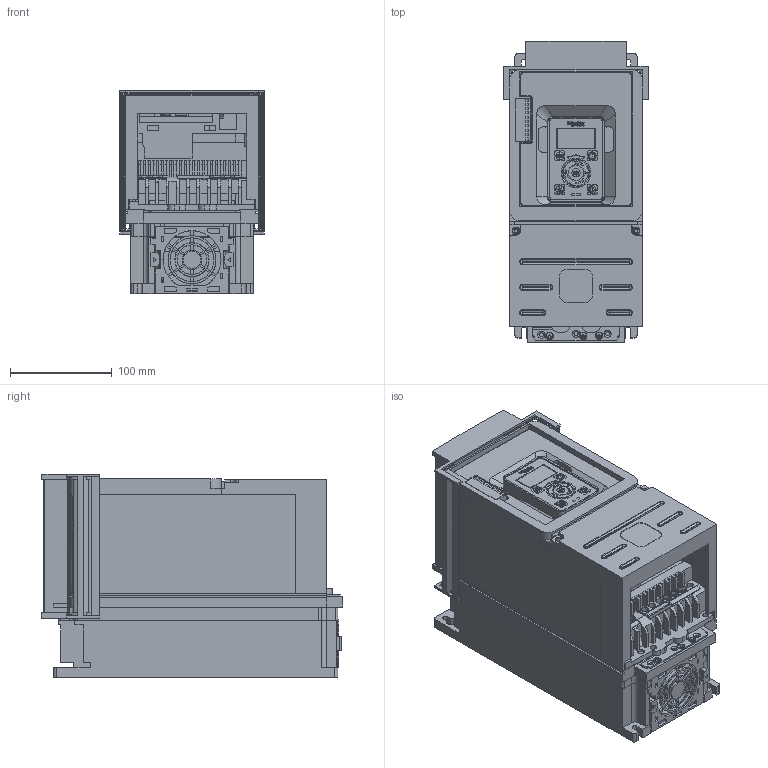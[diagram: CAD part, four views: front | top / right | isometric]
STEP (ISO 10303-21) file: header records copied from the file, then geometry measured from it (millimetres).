
FILE_DESCRIPTION(('STEP AP242'),'1');
FILE_NAME('atv610u55n4.stp','2020-11-05T07:09:17',('TraceParts'),('TraceParts S.A.'),'Spatial InterOp 3D',' ',' ');
FILE_SCHEMA(('AP242_MANAGED_MODEL_BASED_3D_ENGINEERING_MIM_LF {1 0 10303 442 1 1 4}'));
Length unit declared in the file: millimetre
Products named in the file (1): atv610u55n4_1
Bounding box: 142 x 296.21 x 200 mm (x, y, z)
Volume: 1180898.8 mm3; surface area: 820732.6 mm2
Topology: 20 solids, 20 shells, 3092 faces, 8849 edges, 5818 vertices
Faces by surface type: plane 1983, cylinder 663, extrusion 265, torus 102, bspline 42, sphere 19, cone 18
Full cylindrical faces by diameter (mm): 4.5 x4, 33.5 x1, 57 x1
Entity records: 122255 total; most frequent: CARTESIAN_POINT 41151, ORIENTED_EDGE 17652, DIRECTION 15662, EDGE_CURVE 8826, VECTOR 6500, LINE 6235, VERTEX_POINT 5816, AXIS2_PLACEMENT_3D 4581
